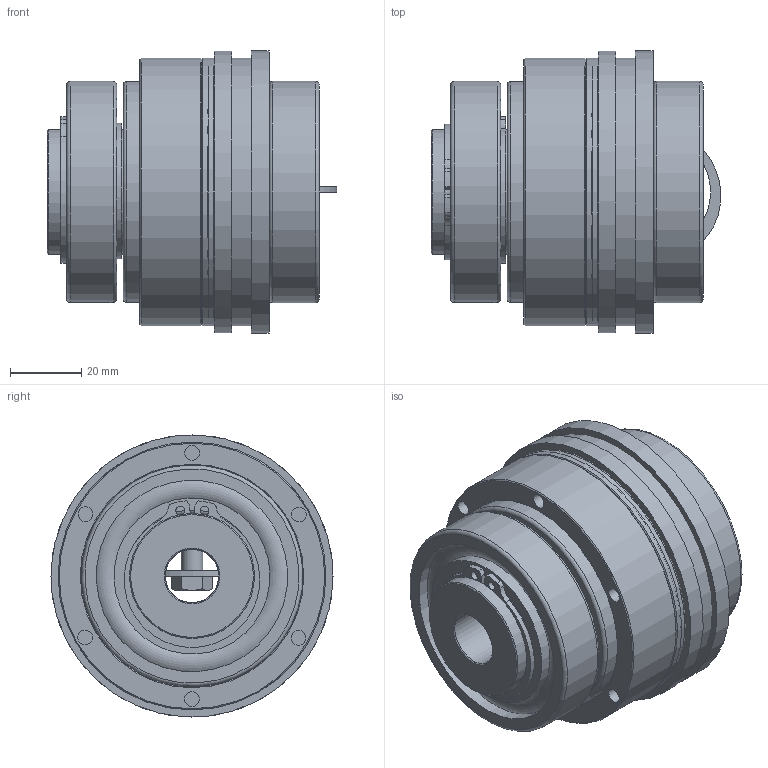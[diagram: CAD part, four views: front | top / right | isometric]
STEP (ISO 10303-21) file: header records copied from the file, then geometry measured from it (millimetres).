
FILE_DESCRIPTION( ( 'Unknown' ), '1' );
FILE_NAME( 'C:/Dokumente und Einstellungen/Sven/Desktop/hp kbk/KBK LL-I-60.stp', 'Unknown', ( 'Unknown' ), ( 'Unknown' ), 'XStep 1.0', 'Unknown', ' ' );
FILE_SCHEMA( ( 'automotive_design' ) );
Length unit declared in the file: millimetre
Products named in the file (12): Assem1; Assem2; ball_bearing_-_6007_0_01; ball_bearing_-_6007_0_02; ball_bearing_-_6007_0_03; Konusbuchse 60; a_35; Stellring 60; Druckring 60; din_en_24017_m6x20; KBK LL-I-60 Grundkörper; Flansch 60
Bounding box: 81.14 x 79 x 79 mm (x, y, z)
Volume: 386580.2 mm3; surface area: 186664.1 mm2
Topology: 32 solids, 32 shells, 514 faces, 1076 edges, 683 vertices
Faces by surface type: plane 207, cylinder 160, cone 108, torus 39
Full cylindrical faces by diameter (mm): 2.5 x6, 3.242 x6, 4 x6, 4.134 x12, 4.917 x18, 6 x7, 6.6 x12, 8.8 x7, 15 x4, 30.2 x2, 33 x4, 35 x10, 43.7 x8, 44 x2, 46 x4, 46.5 x2, 49.5 x2, 53.6 x8, 61.3 x2, 62 x6, 66 x2, 75 x4, 79 x2
Entity records: 5025 total; most frequent: CARTESIAN_POINT 1072, DIRECTION 818, ORIENTED_EDGE 534, AXIS2_PLACEMENT_3D 381, EDGE_LOOP 328, EDGE_CURVE 267, FACE_OUTER_BOUND 241, VERTEX_POINT 219
